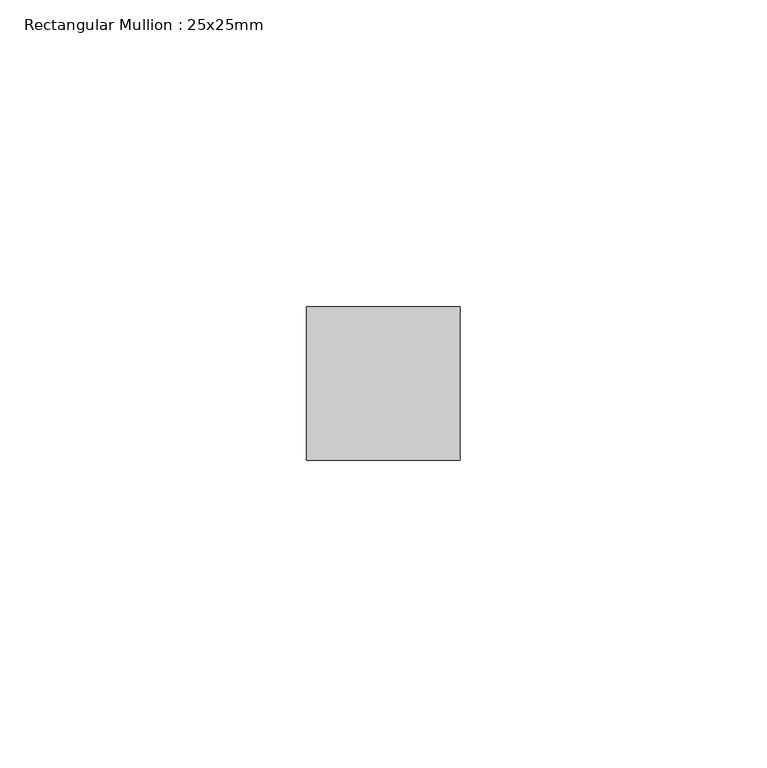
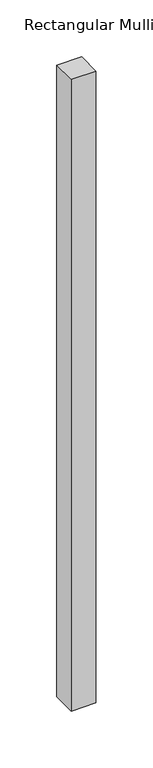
"""IFC4 building model written with IfcOpenShell, lengths in millimetres: member geometry, Rectangular Mullion : 25x25mm."""

from ifc_helpers import new_model, si_unit, frame, origin, place, context, project, spatial, polyline, outline, extrude, source, transform, mapped, element, save


def rectangular_mullion_25x25mm_c838776f(model_context):
    return source(origin(), model_context, "Body", "SweptSolid", [
        extrude(outline(polyline([(12.5, 24.5), (12.5, -0.5), (-12.5, -0.5), (-12.5, 24.5), (12.5, 24.5)])), frame((0.0, 0.0, -677.5041399), z_axis=(0.0, 0.0, 1.0), x_axis=(1.0, 0.0, 0.0)), (0.0, 0.0, 1.0), 677.5041399),
    ])


if __name__ == "__main__":
    model = new_model("IFC4")
    model_context = context("Model", 3, world=origin())
    ifc_project = project(units=[si_unit("LENGTHUNIT", "METRE", prefix="MILLI")], contexts=[model_context])
    site = spatial("IfcSite", under=ifc_project)
    building = spatial("IfcBuilding", under=site)
    placement = place(None, origin())
    rectangular_mullion_25x25mm_shape = rectangular_mullion_25x25mm_c838776f(model_context)
    element("IfcMember", 1, ObjectType="Rectangular Mullion : 25x25mm", at=placement, inside=building, context=model_context, shape_type="MappedRepresentation", body=[
        mapped(rectangular_mullion_25x25mm_shape, transform((0.0, 0.0, 0.0), x_axis=(1.0, 0.0, 0.0), y_axis=(0.0, 1.0, 0.0), z_axis=(0.0, 0.0, 1.0))),
    ])
    save(model, "model.ifc")
